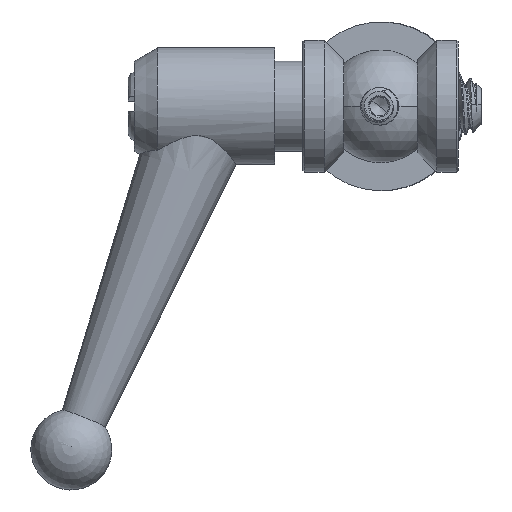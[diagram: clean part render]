
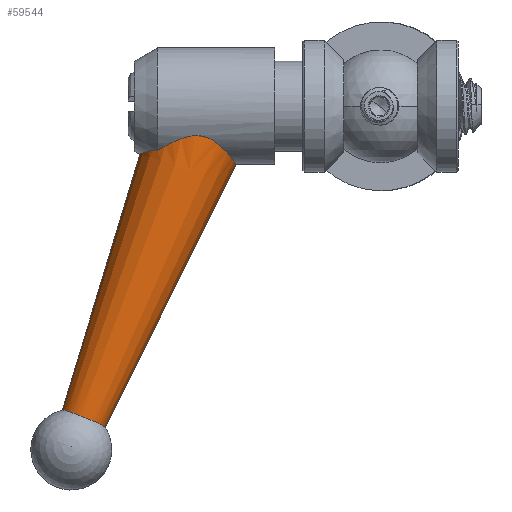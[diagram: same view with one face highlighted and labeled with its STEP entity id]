
A CAD part, left-side view. The second image highlights one B-rep face of the part: STEP entity #59544.
In plain terms, the highlighted conical face has half-angle 4.81 degrees and reference radius 8.42 mm.
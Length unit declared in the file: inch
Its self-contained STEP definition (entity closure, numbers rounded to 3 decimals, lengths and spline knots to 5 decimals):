
#1823 = LINE ( 'NONE', #73942, #33457 ) ;
#4157 = LINE ( 'NONE', #54710, #20010 ) ;
#4309 = CARTESIAN_POINT ( 'NONE',  ( -0.17185, 2.07669, -0.30218 ) ) ;
#4369 = CARTESIAN_POINT ( 'NONE',  ( -0.06147, 1.47847, -0.38659 ) ) ;
#4628 = CARTESIAN_POINT ( 'NONE',  ( -0.29501, 1.59321, -0.25536 ) ) ;
#4888 = CARTESIAN_POINT ( 'NONE',  ( -0.33307, 1.80406, -0.20293 ) ) ;
#6476 = AXIS2_PLACEMENT_3D ( 'NONE', #29583, #35596, #65260 ) ;
#10303 = CARTESIAN_POINT ( 'NONE',  ( -0.13239, 2.09791, -0.30862 ) ) ;
#10367 = CARTESIAN_POINT ( 'NONE',  ( -0.02788, 1.47847, -0.389 ) ) ;
#10627 = CARTESIAN_POINT ( 'NONE',  ( -0.3163, 1.62964, -0.22835 ) ) ;
#10880 = CARTESIAN_POINT ( 'NONE',  ( -0.32351, 1.85114, -0.21791 ) ) ;
#11864 = EDGE_CURVE ( 'NONE', #64017, #70763, #51828, .T. ) ;
#14125 = CARTESIAN_POINT ( 'NONE',  ( -0.02306, 2.12003, -0.32167 ) ) ;
#15473 = ORIENTED_EDGE ( 'NONE', *, *, #54842, .F. ) ;
#16285 = CARTESIAN_POINT ( 'NONE',  ( -0.07897, 2.11436, -0.31624 ) ) ;
#16348 = CARTESIAN_POINT ( 'NONE',  ( -0.14055, 1.49316, -0.36416 ) ) ;
#16600 = CARTESIAN_POINT ( 'NONE',  ( -0.33087, 1.67256, -0.20652 ) ) ;
#16860 = CARTESIAN_POINT ( 'NONE',  ( -0.31019, 1.89544, -0.23653 ) ) ;
#19054 = DIRECTION ( 'NONE',  ( 0.064, -0.446, 0.893 ) ) ;
#19258 = CARTESIAN_POINT ( 'NONE',  ( -0.25663, 2.00312, -0.29367 ) ) ;
#20010 = VECTOR ( 'NONE', #19054, 39.37008 ) ;
#22239 = CARTESIAN_POINT ( 'NONE',  ( -0.04544, 2.11933, -0.31989 ) ) ;
#22303 = CARTESIAN_POINT ( 'NONE',  ( -0.18386, 1.5083, -0.3443 ) ) ;
#22571 = CARTESIAN_POINT ( 'NONE',  ( -0.33597, 1.70481, -0.19805 ) ) ;
#22834 = CARTESIAN_POINT ( 'NONE',  ( -0.28753, 1.95143, -0.26411 ) ) ;
#25671 = DIRECTION ( 'NONE',  ( -0.066, 0.369, -0.927 ) ) ;
#27985 = CARTESIAN_POINT ( 'NONE',  ( -0.25663, 2.00312, -0.29367 ) ) ;
#28234 = CARTESIAN_POINT ( 'NONE',  ( -0.02306, 2.12003, -0.32167 ) ) ;
#28299 = CARTESIAN_POINT ( 'NONE',  ( -0.22316, 1.52834, -0.32021 ) ) ;
#28545 = CARTESIAN_POINT ( 'NONE',  ( -0.3377, 1.72959, -0.19509 ) ) ;
#28805 = CARTESIAN_POINT ( 'NONE',  ( -0.25663, 2.00312, -0.29367 ) ) ;
#29098 = ORIENTED_EDGE ( 'NONE', *, *, #54166, .F. ) ;
#29583 = CARTESIAN_POINT ( 'NONE',  ( -0.00875, 1.71422, -0.1221 ) ) ;
#33457 = VECTOR ( 'NONE', #67694, 39.37008 ) ;
#33722 = B_SPLINE_CURVE_WITH_KNOTS ( 'NONE', 3,
 ( #27985, #63650, #33978, #75660, #39965, #4309, #45963, #10303, #51916, #16285, #57893, #22239, #63899, #28234 ),
 .UNSPECIFIED., .F., .F.,
 ( 4, 2, 2, 2, 2, 2, 4 ),
 ( 0., 0.00172, 0.00257, 0.00343, 0.00515, 0.00601, 0.00686 ),
 .UNSPECIFIED. ) ;
#33978 = CARTESIAN_POINT ( 'NONE',  ( -0.22578, 2.03632, -0.29458 ) ) ;
#34162 = CARTESIAN_POINT ( 'NONE',  ( -0.15321, 2.35171, -2.13746 ) ) ;
#34289 = CARTESIAN_POINT ( 'NONE',  ( -0.2574, 1.55291, -0.29334 ) ) ;
#34557 = CARTESIAN_POINT ( 'NONE',  ( -0.3376, 1.75479, -0.19526 ) ) ;
#35318 = ORIENTED_EDGE ( 'NONE', *, *, #11864, .T. ) ;
#35340 = EDGE_CURVE ( 'NONE', #70763, #42946, #33722, .T. ) ;
#35596 = DIRECTION ( 'NONE',  ( 0.066, -0.369, 0.927 ) ) ;
#38909 = FACE_OUTER_BOUND ( 'NONE', #73527, .T. ) ;
#39965 = CARTESIAN_POINT ( 'NONE',  ( -0.19066, 2.06423, -0.29924 ) ) ;
#40297 = CARTESIAN_POINT ( 'NONE',  ( -0.28649, 1.58225, -0.26496 ) ) ;
#40548 = CARTESIAN_POINT ( 'NONE',  ( -0.3359, 1.77969, -0.19818 ) ) ;
#40950 = CIRCLE ( 'NONE', #70169, 0.15368 ) ;
#41987 = ORIENTED_EDGE ( 'NONE', *, *, #69649, .T. ) ;
#42946 = VERTEX_POINT ( 'NONE', #14125 ) ;
#45963 = CARTESIAN_POINT ( 'NONE',  ( -0.16212, 2.08244, -0.30378 ) ) ;
#46278 = CARTESIAN_POINT ( 'NONE',  ( -0.30986, 1.61685, -0.23712 ) ) ;
#46535 = CARTESIAN_POINT ( 'NONE',  ( -0.33034, 1.81997, -0.2074 ) ) ;
#51828 = B_SPLINE_CURVE_WITH_KNOTS ( 'NONE', 3,
 ( #10367, #4369, #51974, #16348, #57954, #22303, #63959, #28299, #69969, #34289, #75978, #40297, #4628, #46278, #10627, #52249, #16600, #58221, #22571, #64222, #28545, #70226, #34557, #76237, #40548, #4888, #46535, #10880, #52498, #16860, #58475, #22834, #64488, #28805 ),
 .UNSPECIFIED., .F., .F.,
 ( 4, 2, 2, 2, 2, 2, 2, 2, 2, 2, 2, 2, 2, 2, 2, 2, 4 ),
 ( 0.02022, 0.02275, 0.02401, 0.02527, 0.02653, 0.0278, 0.02906, 0.03032, 0.03159, 0.03222, 0.03285, 0.03348, 0.03411, 0.03537, 0.03664, 0.0379, 0.04042 ),
 .UNSPECIFIED. ) ;
#51916 = CARTESIAN_POINT ( 'NONE',  ( -0.11168, 2.106, -0.31192 ) ) ;
#51974 = CARTESIAN_POINT ( 'NONE',  ( -0.09389, 1.48217, -0.37995 ) ) ;
#52249 = CARTESIAN_POINT ( 'NONE',  ( -0.32687, 1.65768, -0.21294 ) ) ;
#52498 = CARTESIAN_POINT ( 'NONE',  ( -0.31945, 1.86617, -0.22386 ) ) ;
#54166 = EDGE_CURVE ( 'NONE', #68729, #65482, #40950, .T. ) ;
#54710 = CARTESIAN_POINT ( 'NONE',  ( -0.0175, 1.40615, -0.2442 ) ) ;
#54842 = EDGE_CURVE ( 'NONE', #65482, #42946, #1823, .T. ) ;
#57893 = CARTESIAN_POINT ( 'NONE',  ( -0.06775, 2.11651, -0.31758 ) ) ;
#57954 = CARTESIAN_POINT ( 'NONE',  ( -0.15546, 1.49768, -0.35802 ) ) ;
#58221 = CARTESIAN_POINT ( 'NONE',  ( -0.33495, 1.69658, -0.19979 ) ) ;
#58475 = CARTESIAN_POINT ( 'NONE',  ( -0.30497, 1.90968, -0.24326 ) ) ;
#59544 = ADVANCED_FACE ( 'NONE', ( #38909 ), #64960, .T. ) ;
#61327 = CARTESIAN_POINT ( 'NONE',  ( -0.14916, 2.49452, -2.08085 ) ) ;
#61961 = CARTESIAN_POINT ( 'NONE',  ( -0.1451, 2.63734, -2.02425 ) ) ;
#63650 = CARTESIAN_POINT ( 'NONE',  ( -0.24184, 2.02054, -0.29323 ) ) ;
#63899 = CARTESIAN_POINT ( 'NONE',  ( -0.03426, 2.12003, -0.32087 ) ) ;
#63959 = CARTESIAN_POINT ( 'NONE',  ( -0.19739, 1.51441, -0.33671 ) ) ;
#64017 = VERTEX_POINT ( 'NONE', #72923 ) ;
#64222 = CARTESIAN_POINT ( 'NONE',  ( -0.33734, 1.72129, -0.19572 ) ) ;
#64488 = CARTESIAN_POINT ( 'NONE',  ( -0.27346, 1.97812, -0.27896 ) ) ;
#64960 = CONICAL_SURFACE ( 'NONE', #6476, 0.3315, 0.084 ) ;
#65260 = DIRECTION ( 'NONE',  ( 0.026, 0.929, 0.368 ) ) ;
#65482 = VERTEX_POINT ( 'NONE', #61961 ) ;
#67343 = DIRECTION ( 'NONE',  ( -0.026, -0.929, -0.368 ) ) ;
#67694 = DIRECTION ( 'NONE',  ( 0.068, -0.29, 0.955 ) ) ;
#68729 = VERTEX_POINT ( 'NONE', #34162 ) ;
#69649 = EDGE_CURVE ( 'NONE', #68729, #64017, #4157, .T. ) ;
#69969 = CARTESIAN_POINT ( 'NONE',  ( -0.23517, 1.53605, -0.31145 ) ) ;
#70169 = AXIS2_PLACEMENT_3D ( 'NONE', #61327, #25671, #67343 ) ;
#70226 = CARTESIAN_POINT ( 'NONE',  ( -0.33783, 1.74631, -0.19486 ) ) ;
#70763 = VERTEX_POINT ( 'NONE', #19258 ) ;
#72923 = CARTESIAN_POINT ( 'NONE',  ( -0.02788, 1.47847, -0.389 ) ) ;
#73498 = ORIENTED_EDGE ( 'NONE', *, *, #35340, .T. ) ;
#73527 = EDGE_LOOP ( 'NONE', ( #29098, #41987, #35318, #73498, #15473 ) ) ;
#73942 = CARTESIAN_POINT ( 'NONE',  ( 0., 2.02229, 0. ) ) ;
#75660 = CARTESIAN_POINT ( 'NONE',  ( -0.1997, 2.05756, -0.29791 ) ) ;
#75978 = CARTESIAN_POINT ( 'NONE',  ( -0.26766, 1.56208, -0.28397 ) ) ;
#76237 = CARTESIAN_POINT ( 'NONE',  ( -0.33663, 1.77147, -0.19693 ) ) ;
